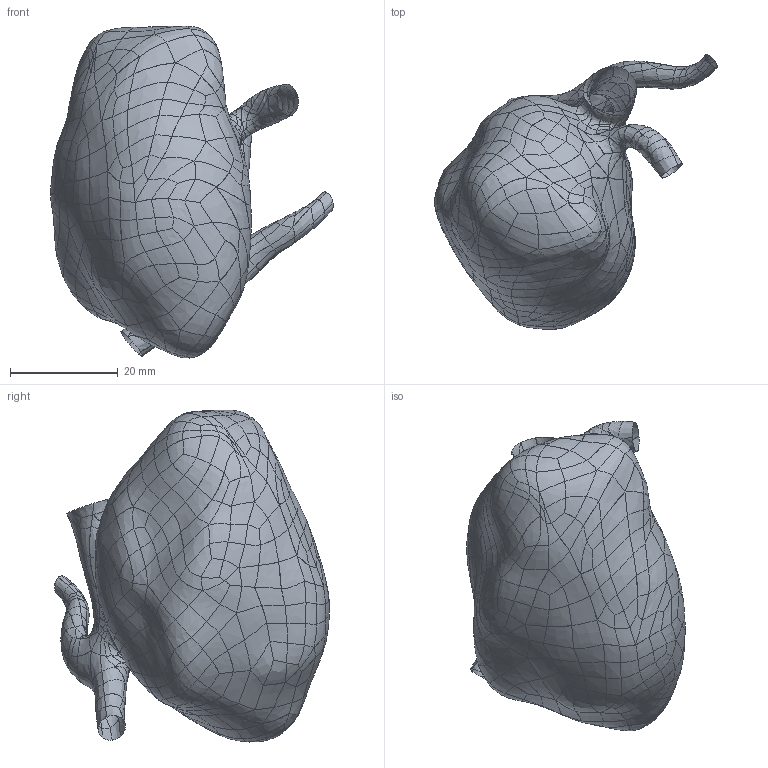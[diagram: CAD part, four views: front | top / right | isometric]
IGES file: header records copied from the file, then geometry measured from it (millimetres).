
Start section: Geomagic Studio
Global section: file name: D:\Ansys\Stent\Tyurumina.igs; native system: Geomagic -- Studio 2014; preprocessor: 2014; author: <unspecified>; organization: <unspecified>; date: 20190206.020723; units: millimetre
Bounding box: 52.39 x 50.97 x 61.55 mm (x, y, z)
Surface area: 8187.3 mm2 (no closed solid volume)
Topology: 0 solids, 0 shells, 815 faces, 3260 edges, 3260 vertices
Faces by surface type: bspline 815
